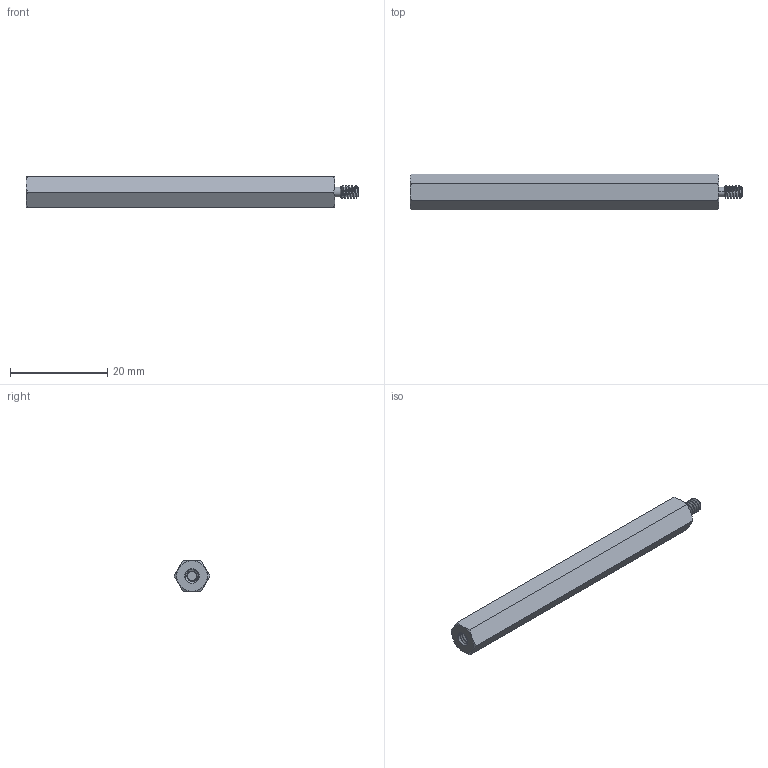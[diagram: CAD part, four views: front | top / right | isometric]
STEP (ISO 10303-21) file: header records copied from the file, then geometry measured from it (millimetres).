
FILE_DESCRIPTION (( 'STEP AP203' ), '1' );
FILE_NAME ('93505A008_Male-Female Threaded Hex Standoff.STEP', '2021-07-10T01:21:59', ( 'Administrator' ), ( 'Managed by Terraform' ), 'SwSTEP 2.0', 'SolidWorks 2017', '' );
FILE_SCHEMA (( 'CONFIG_CONTROL_DESIGN' ));
Length unit declared in the file: inch
Products named in the file (1): 93505A008_Male-Female Threaded Hex Standoff
Bounding box: 68.26 x 7.33 x 6.35 mm (x, y, z)
Volume: 2206.5 mm3; surface area: 1600.3 mm2
Topology: 1 solids, 1 shells, 68 faces, 175 edges, 111 vertices
Faces by surface type: cylinder 33, cone 18, plane 11, bspline 6
Entity records: 4234 total; most frequent: CARTESIAN_POINT 2772, ORIENTED_EDGE 350, DIRECTION 225, EDGE_CURVE 175, VERTEX_POINT 111, AXIS2_PLACEMENT_3D 89, EDGE_LOOP 70, ADVANCED_FACE 68
